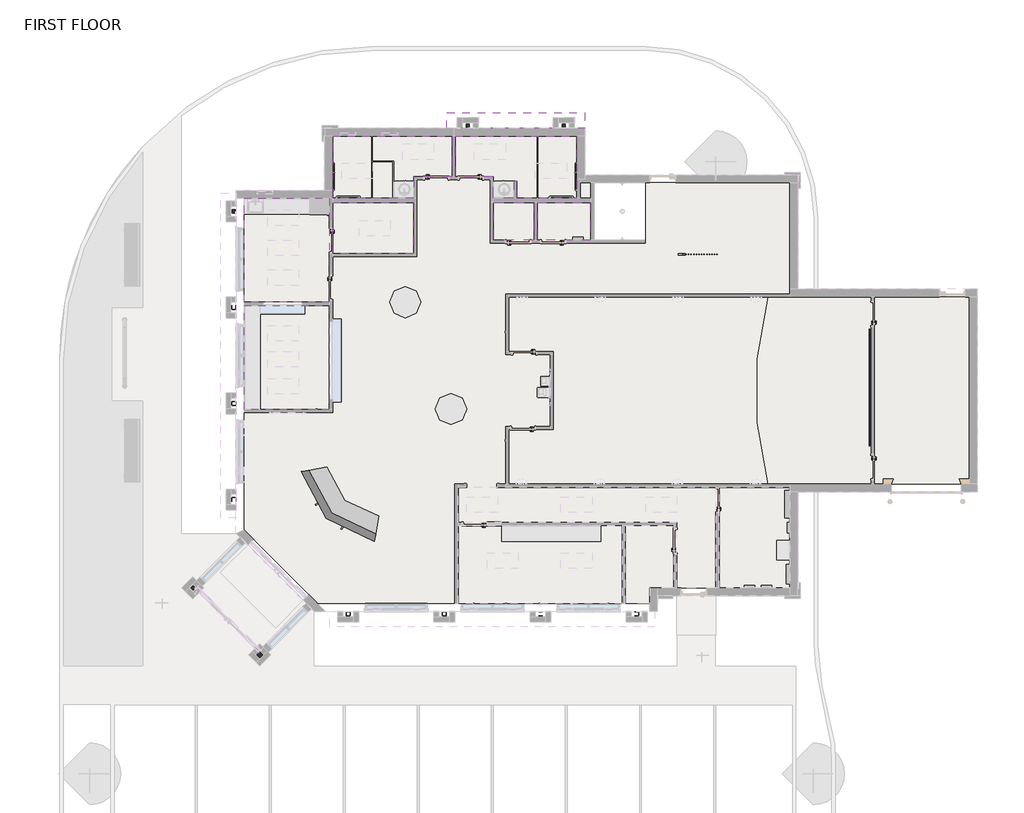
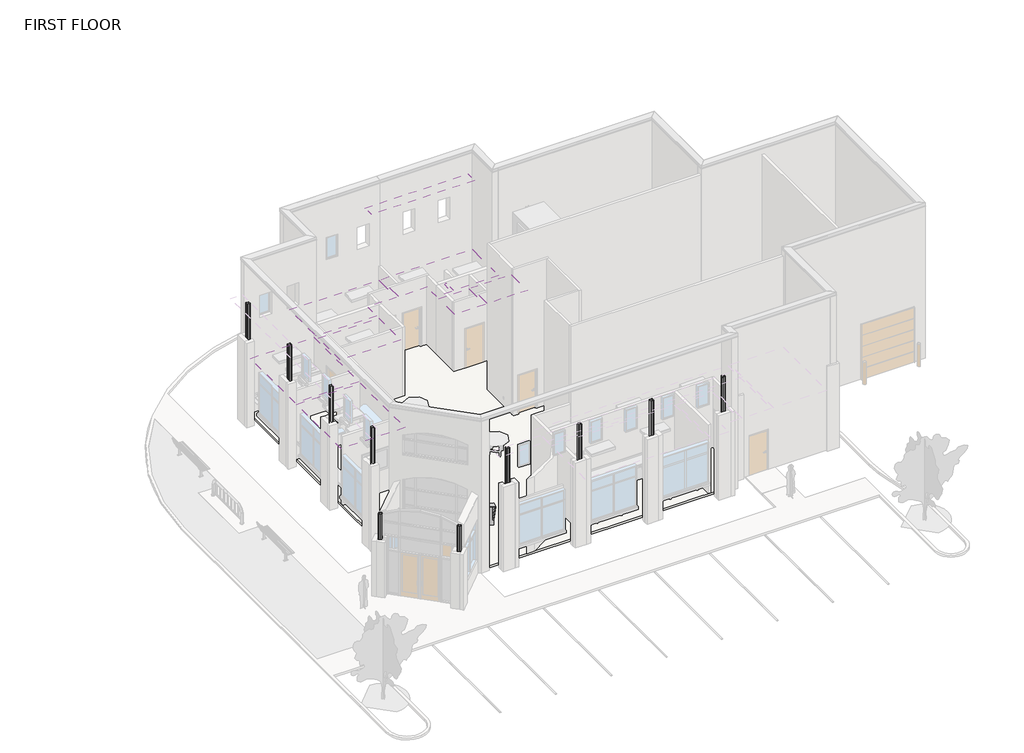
# One storey, part 5 of 7: 12 columns, 7 coverings, 3 furniture elements, 2 railings, 2 slabs, 1 roof.
"""IFC4 building model written with IfcOpenShell, lengths in millimetres."""

from ifc_helpers import new_model, si_unit, point, frame, frame_2d, origin, place, context, project, spatial, polyline, circle_curve, trimmed, segment, composite_curve, outline, extrude, transform, mapped, element, save
from components import furniture_81c1c4d7, curved_reception_counter_short_curved_reception_counter_620d5c6e, handrail_rectangular_f7c7f1c9, handrail_rectangular_457fed54

model = new_model("IFC4")

# Units and contexts
model_context = context("Model", 3, world=origin())
ifc_project = project(units=[si_unit("LENGTHUNIT", "METRE", prefix="MILLI")], contexts=[model_context])

# Site, building, storey
site = spatial("IfcSite", under=ifc_project)
building = spatial("IfcBuilding", under=site)
storey = spatial("IfcBuildingStorey", under=building, Name="FIRST FLOOR", Elevation=30480.0)

# Columns
placement = place(None, origin())
element("IfcColumn", 1, ObjectType="HSS-Hollow Structural Section-Column : HSS6X6X1/2", at=placement, inside=storey, context=model_context, shape_type="SweptSolid", body=[
    extrude(outline(composite_curve([segment(trimmed(circle_curve(frame_2d((-12403.0493155, -6306.813022)), 23.6140625), [point((-12403.0493155, -6283.1989595))], [point((-12379.435253, -6306.813022))], False, "CARTESIAN"), True, "CONTINUOUS"), segment(polyline([(-12379.435253, -6306.813022), (-12379.435253, -6411.984897)]), True, "CONTINUOUS"), segment(trimmed(circle_curve(frame_2d((-12403.0493155, -6411.984897)), 23.6140625), [point((-12379.435253, -6411.984897))], [point((-12403.0493155, -6435.5989595))], False, "CARTESIAN"), True, "CONTINUOUS"), segment(polyline([(-12403.0493155, -6435.5989595), (-12508.2211905, -6435.5989595)]), True, "CONTINUOUS"), segment(trimmed(circle_curve(frame_2d((-12508.2211905, -6411.984897)), 23.6140625), [point((-12508.2211905, -6435.5989595))], [point((-12531.835253, -6411.984897))], False, "CARTESIAN"), True, "CONTINUOUS"), segment(polyline([(-12531.835253, -6411.984897), (-12531.835253, -6306.813022)]), True, "CONTINUOUS"), segment(trimmed(circle_curve(frame_2d((-12508.2211905, -6306.813022)), 23.6140625), [point((-12531.835253, -6306.813022))], [point((-12508.2211905, -6283.1989595))], False, "CARTESIAN"), True, "CONTINUOUS"), segment(polyline([(-12508.2211905, -6283.1989595), (-12403.0493155, -6283.1989595)]), True, "CONTINUOUS")], self_intersect=False), holes=[composite_curve([segment(polyline([(-12403.0493155, -6295.0059907), (-12508.2211905, -6295.0059907)]), True, "CONTINUOUS"), segment(trimmed(circle_curve(frame_2d((-12508.2211905, -6306.813022)), 11.8070312), [point((-12508.2211905, -6295.0059907))], [point((-12520.0282218, -6306.813022))], True, "CARTESIAN"), True, "CONTINUOUS"), segment(polyline([(-12520.0282218, -6306.813022), (-12520.0282218, -6411.984897)]), True, "CONTINUOUS"), segment(trimmed(circle_curve(frame_2d((-12508.2211905, -6411.984897)), 11.8070312), [point((-12520.0282218, -6411.984897))], [point((-12508.2211905, -6423.7919282))], True, "CARTESIAN"), True, "CONTINUOUS"), segment(polyline([(-12508.2211905, -6423.7919282), (-12403.0493155, -6423.7919282)]), True, "CONTINUOUS"), segment(trimmed(circle_curve(frame_2d((-12403.0493155, -6411.984897)), 11.8070312), [point((-12403.0493155, -6423.7919282))], [point((-12391.2422843, -6411.984897))], True, "CARTESIAN"), True, "CONTINUOUS"), segment(polyline([(-12391.2422843, -6411.984897), (-12391.2422843, -6306.813022)]), True, "CONTINUOUS"), segment(trimmed(circle_curve(frame_2d((-12403.0493155, -6306.813022)), 11.8070312), [point((-12391.2422843, -6306.813022))], [point((-12403.0493155, -6295.0059907))], True, "CARTESIAN"), True, "CONTINUOUS")], self_intersect=False)]), frame((0.0, 0.0, 30480.0), z_axis=(0.0, 0.0, 1.0), x_axis=(1.0, 0.0, 0.0)), (0.0, 0.0, 1.0), 6553.2),
])
element("IfcColumn", 2, ObjectType="HSS-Hollow Structural Section-Column : HSS6X6X1/2", at=placement, inside=storey, context=model_context, shape_type="SweptSolid", body=[
    extrude(outline(composite_curve([segment(trimmed(circle_curve(frame_2d((-8643.8594755, -6306.813022)), 23.6140625), [point((-8643.8594755, -6283.1989595))], [point((-8620.245413, -6306.813022))], False, "CARTESIAN"), True, "CONTINUOUS"), segment(polyline([(-8620.245413, -6306.813022), (-8620.245413, -6411.984897)]), True, "CONTINUOUS"), segment(trimmed(circle_curve(frame_2d((-8643.8594755, -6411.984897)), 23.6140625), [point((-8620.245413, -6411.984897))], [point((-8643.8594755, -6435.5989595))], False, "CARTESIAN"), True, "CONTINUOUS"), segment(polyline([(-8643.8594755, -6435.5989595), (-8749.0313505, -6435.5989595)]), True, "CONTINUOUS"), segment(trimmed(circle_curve(frame_2d((-8749.0313505, -6411.984897)), 23.6140625), [point((-8749.0313505, -6435.5989595))], [point((-8772.645413, -6411.984897))], False, "CARTESIAN"), True, "CONTINUOUS"), segment(polyline([(-8772.645413, -6411.984897), (-8772.645413, -6306.813022)]), True, "CONTINUOUS"), segment(trimmed(circle_curve(frame_2d((-8749.0313505, -6306.813022)), 23.6140625), [point((-8772.645413, -6306.813022))], [point((-8749.0313505, -6283.1989595))], False, "CARTESIAN"), True, "CONTINUOUS"), segment(polyline([(-8749.0313505, -6283.1989595), (-8643.8594755, -6283.1989595)]), True, "CONTINUOUS")], self_intersect=False), holes=[composite_curve([segment(polyline([(-8643.8594755, -6295.0059907), (-8749.0313505, -6295.0059907)]), True, "CONTINUOUS"), segment(trimmed(circle_curve(frame_2d((-8749.0313505, -6306.813022)), 11.8070312), [point((-8749.0313505, -6295.0059907))], [point((-8760.8383818, -6306.813022))], True, "CARTESIAN"), True, "CONTINUOUS"), segment(polyline([(-8760.8383818, -6306.813022), (-8760.8383818, -6411.984897)]), True, "CONTINUOUS"), segment(trimmed(circle_curve(frame_2d((-8749.0313505, -6411.984897)), 11.8070313), [point((-8760.8383818, -6411.984897))], [point((-8749.0313505, -6423.7919282))], True, "CARTESIAN"), True, "CONTINUOUS"), segment(polyline([(-8749.0313505, -6423.7919282), (-8643.8594755, -6423.7919282)]), True, "CONTINUOUS"), segment(trimmed(circle_curve(frame_2d((-8643.8594755, -6411.984897)), 11.8070312), [point((-8643.8594755, -6423.7919282))], [point((-8632.0524443, -6411.984897))], True, "CARTESIAN"), True, "CONTINUOUS"), segment(polyline([(-8632.0524443, -6411.984897), (-8632.0524443, -6306.813022)]), True, "CONTINUOUS"), segment(trimmed(circle_curve(frame_2d((-8643.8594755, -6306.813022)), 11.8070312), [point((-8632.0524443, -6306.813022))], [point((-8643.8594755, -6295.0059907))], True, "CARTESIAN"), True, "CONTINUOUS")], self_intersect=False)]), frame((0.0, 0.0, 30480.0), z_axis=(0.0, 0.0, 1.0), x_axis=(1.0, 0.0, 0.0)), (0.0, 0.0, 1.0), 6553.2),
])
element("IfcColumn", 3, ObjectType="HSS-Hollow Structural Section-Column : HSS6X6X1/2", at=placement, inside=storey, context=model_context, shape_type="SweptSolid", body=[
    extrude(outline(composite_curve([segment(trimmed(circle_curve(frame_2d((-4884.6696355, -6306.813022)), 23.6140625), [point((-4884.6696355, -6283.1989595))], [point((-4861.055573, -6306.813022))], False, "CARTESIAN"), True, "CONTINUOUS"), segment(polyline([(-4861.055573, -6306.813022), (-4861.055573, -6411.984897)]), True, "CONTINUOUS"), segment(trimmed(circle_curve(frame_2d((-4884.6696355, -6411.984897)), 23.6140625), [point((-4861.055573, -6411.984897))], [point((-4884.6696355, -6435.5989595))], False, "CARTESIAN"), True, "CONTINUOUS"), segment(polyline([(-4884.6696355, -6435.5989595), (-4989.8415105, -6435.5989595)]), True, "CONTINUOUS"), segment(trimmed(circle_curve(frame_2d((-4989.8415105, -6411.984897)), 23.6140625), [point((-4989.8415105, -6435.5989595))], [point((-5013.455573, -6411.984897))], False, "CARTESIAN"), True, "CONTINUOUS"), segment(polyline([(-5013.455573, -6411.984897), (-5013.455573, -6306.813022)]), True, "CONTINUOUS"), segment(trimmed(circle_curve(frame_2d((-4989.8415105, -6306.813022)), 23.6140625), [point((-5013.455573, -6306.813022))], [point((-4989.8415105, -6283.1989595))], False, "CARTESIAN"), True, "CONTINUOUS"), segment(polyline([(-4989.8415105, -6283.1989595), (-4884.6696355, -6283.1989595)]), True, "CONTINUOUS")], self_intersect=False), holes=[composite_curve([segment(polyline([(-4884.6696355, -6295.0059907), (-4989.8415105, -6295.0059907)]), True, "CONTINUOUS"), segment(trimmed(circle_curve(frame_2d((-4989.8415105, -6306.813022)), 11.8070312), [point((-4989.8415105, -6295.0059907))], [point((-5001.6485418, -6306.813022))], True, "CARTESIAN"), True, "CONTINUOUS"), segment(polyline([(-5001.6485418, -6306.813022), (-5001.6485418, -6411.984897)]), True, "CONTINUOUS"), segment(trimmed(circle_curve(frame_2d((-4989.8415105, -6411.984897)), 11.8070313), [point((-5001.6485418, -6411.984897))], [point((-4989.8415105, -6423.7919282))], True, "CARTESIAN"), True, "CONTINUOUS"), segment(polyline([(-4989.8415105, -6423.7919282), (-4884.6696355, -6423.7919282)]), True, "CONTINUOUS"), segment(trimmed(circle_curve(frame_2d((-4884.6696355, -6411.984897)), 11.8070312), [point((-4884.6696355, -6423.7919282))], [point((-4872.8626043, -6411.984897))], True, "CARTESIAN"), True, "CONTINUOUS"), segment(polyline([(-4872.8626043, -6411.984897), (-4872.8626043, -6306.813022)]), True, "CONTINUOUS"), segment(trimmed(circle_curve(frame_2d((-4884.6696355, -6306.813022)), 11.8070312), [point((-4872.8626043, -6306.813022))], [point((-4884.6696355, -6295.0059907))], True, "CARTESIAN"), True, "CONTINUOUS")], self_intersect=False)]), frame((0.0, 0.0, 30480.0), z_axis=(0.0, 0.0, 1.0), x_axis=(1.0, 0.0, 0.0)), (0.0, 0.0, 1.0), 6553.2),
])
element("IfcColumn", 4, ObjectType="HSS-Hollow Structural Section-Column : HSS6X6X1/2", at=placement, inside=storey, context=model_context, shape_type="SweptSolid", body=[
    extrude(outline(composite_curve([segment(trimmed(circle_curve(frame_2d((-1125.4797955, -6306.813022)), 23.6140625), [point((-1125.4797955, -6283.1989595))], [point((-1101.865733, -6306.813022))], False, "CARTESIAN"), True, "CONTINUOUS"), segment(polyline([(-1101.865733, -6306.813022), (-1101.865733, -6411.984897)]), True, "CONTINUOUS"), segment(trimmed(circle_curve(frame_2d((-1125.4797955, -6411.984897)), 23.6140625), [point((-1101.865733, -6411.984897))], [point((-1125.4797955, -6435.5989595))], False, "CARTESIAN"), True, "CONTINUOUS"), segment(polyline([(-1125.4797955, -6435.5989595), (-1230.6516705, -6435.5989595)]), True, "CONTINUOUS"), segment(trimmed(circle_curve(frame_2d((-1230.6516705, -6411.984897)), 23.6140625), [point((-1230.6516705, -6435.5989595))], [point((-1254.265733, -6411.984897))], False, "CARTESIAN"), True, "CONTINUOUS"), segment(polyline([(-1254.265733, -6411.984897), (-1254.265733, -6306.813022)]), True, "CONTINUOUS"), segment(trimmed(circle_curve(frame_2d((-1230.6516705, -6306.813022)), 23.6140625), [point((-1254.265733, -6306.813022))], [point((-1230.6516705, -6283.1989595))], False, "CARTESIAN"), True, "CONTINUOUS"), segment(polyline([(-1230.6516705, -6283.1989595), (-1125.4797955, -6283.1989595)]), True, "CONTINUOUS")], self_intersect=False), holes=[composite_curve([segment(polyline([(-1125.4797955, -6295.0059907), (-1230.6516705, -6295.0059907)]), True, "CONTINUOUS"), segment(trimmed(circle_curve(frame_2d((-1230.6516705, -6306.813022)), 11.8070312), [point((-1230.6516705, -6295.0059907))], [point((-1242.4587018, -6306.813022))], True, "CARTESIAN"), True, "CONTINUOUS"), segment(polyline([(-1242.4587018, -6306.813022), (-1242.4587018, -6411.984897)]), True, "CONTINUOUS"), segment(trimmed(circle_curve(frame_2d((-1230.6516705, -6411.984897)), 11.8070313), [point((-1242.4587018, -6411.984897))], [point((-1230.6516705, -6423.7919282))], True, "CARTESIAN"), True, "CONTINUOUS"), segment(polyline([(-1230.6516705, -6423.7919282), (-1125.4797955, -6423.7919282)]), True, "CONTINUOUS"), segment(trimmed(circle_curve(frame_2d((-1125.4797955, -6411.984897)), 11.8070312), [point((-1125.4797955, -6423.7919282))], [point((-1113.6727643, -6411.984897))], True, "CARTESIAN"), True, "CONTINUOUS"), segment(polyline([(-1113.6727643, -6411.984897), (-1113.6727643, -6306.813022)]), True, "CONTINUOUS"), segment(trimmed(circle_curve(frame_2d((-1125.4797955, -6306.813022)), 11.8070312), [point((-1113.6727643, -6306.813022))], [point((-1125.4797955, -6295.0059907))], True, "CARTESIAN"), True, "CONTINUOUS")], self_intersect=False)]), frame((0.0, 0.0, 30480.0), z_axis=(0.0, 0.0, 1.0), x_axis=(1.0, 0.0, 0.0)), (0.0, 0.0, 1.0), 6553.2),
])
element("IfcColumn", 5, ObjectType="HSS-Hollow Structural Section-Column : HSS6X6X1/2", at=placement, inside=storey, context=model_context, shape_type="SweptSolid", body=[
    extrude(outline(composite_curve([segment(trimmed(circle_curve(frame_2d((-15835.667507, -7960.3466657)), 23.6140625), [point((-15818.9698433, -7943.6490019))], [point((-15818.9698433, -7977.0443294))], False, "CARTESIAN"), True, "CONTINUOUS"), segment(polyline([(-15818.9698433, -7977.0443294), (-15893.3375893, -8051.4120754)]), True, "CONTINUOUS"), segment(trimmed(circle_curve(frame_2d((-15910.035253, -8034.7144117)), 23.6140625), [point((-15893.3375893, -8051.4120754))], [point((-15926.7329168, -8051.4120754))], False, "CARTESIAN"), True, "CONTINUOUS"), segment(polyline([(-15926.7329168, -8051.4120754), (-16001.1006628, -7977.0443294)]), True, "CONTINUOUS"), segment(trimmed(circle_curve(frame_2d((-15984.402999, -7960.3466657)), 23.6140625), [point((-16001.1006628, -7977.0443294))], [point((-16001.1006628, -7943.6490019))], False, "CARTESIAN"), True, "CONTINUOUS"), segment(polyline([(-16001.1006628, -7943.6490019), (-15926.7329168, -7869.2812559)]), True, "CONTINUOUS"), segment(trimmed(circle_curve(frame_2d((-15910.035253, -7885.9789197)), 23.6140625), [point((-15926.7329168, -7869.2812559))], [point((-15893.3375893, -7869.2812559))], False, "CARTESIAN"), True, "CONTINUOUS"), segment(polyline([(-15893.3375893, -7869.2812559), (-15818.9698433, -7943.6490019)]), True, "CONTINUOUS")], self_intersect=False), holes=[composite_curve([segment(polyline([(-15827.3186752, -7951.9978338), (-15901.6864212, -7877.6300878)]), True, "CONTINUOUS"), segment(trimmed(circle_curve(frame_2d((-15910.035253, -7885.9789197)), 11.8070312), [point((-15901.6864212, -7877.6300878))], [point((-15918.3840849, -7877.6300878))], True, "CARTESIAN"), True, "CONTINUOUS"), segment(polyline([(-15918.3840849, -7877.6300878), (-15992.7518309, -7951.9978338)]), True, "CONTINUOUS"), segment(trimmed(circle_curve(frame_2d((-15984.402999, -7960.3466657)), 11.8070313), [point((-15992.7518309, -7951.9978338))], [point((-15992.7518309, -7968.6954975))], True, "CARTESIAN"), True, "CONTINUOUS"), segment(polyline([(-15992.7518309, -7968.6954975), (-15918.3840849, -8043.0632435)]), True, "CONTINUOUS"), segment(trimmed(circle_curve(frame_2d((-15910.035253, -8034.7144117)), 11.8070312), [point((-15918.3840849, -8043.0632435))], [point((-15901.6864212, -8043.0632435))], True, "CARTESIAN"), True, "CONTINUOUS"), segment(polyline([(-15901.6864212, -8043.0632435), (-15827.3186752, -7968.6954975)]), True, "CONTINUOUS"), segment(trimmed(circle_curve(frame_2d((-15835.667507, -7960.3466657)), 11.8070312), [point((-15827.3186752, -7968.6954975))], [point((-15827.3186752, -7951.9978338))], True, "CARTESIAN"), True, "CONTINUOUS")], self_intersect=False)]), frame((0.0, 0.0, 30480.0), z_axis=(0.0, 0.0, 1.0), x_axis=(1.0, 0.0, 0.0)), (0.0, 0.0, 1.0), 4419.6),
])
element("IfcColumn", 6, ObjectType="HSS-Hollow Structural Section-Column : HSS6X6X1/2", at=placement, inside=storey, context=model_context, shape_type="SweptSolid", body=[
    extrude(outline(composite_curve([segment(polyline([(-18510.2852955, -5252.3335497), (-18435.9175495, -5326.7012957)]), True, "CONTINUOUS"), segment(trimmed(circle_curve(frame_2d((-18452.6152132, -5343.3989595)), 23.6140625), [point((-18435.9175495, -5326.7012957))], [point((-18435.9175495, -5360.0966232))], False, "CARTESIAN"), True, "CONTINUOUS"), segment(polyline([(-18435.9175495, -5360.0966232), (-18510.2852955, -5434.4643692)]), True, "CONTINUOUS"), segment(trimmed(circle_curve(frame_2d((-18526.9829592, -5417.7667055)), 23.6140625), [point((-18510.2852955, -5434.4643692))], [point((-18543.6806229, -5434.4643692))], False, "CARTESIAN"), True, "CONTINUOUS"), segment(polyline([(-18543.6806229, -5434.4643692), (-18618.0483689, -5360.0966232)]), True, "CONTINUOUS"), segment(trimmed(circle_curve(frame_2d((-18601.3507052, -5343.3989595)), 23.6140625), [point((-18618.0483689, -5360.0966232))], [point((-18618.0483689, -5326.7012957))], False, "CARTESIAN"), True, "CONTINUOUS"), segment(polyline([(-18618.0483689, -5326.7012957), (-18543.6806229, -5252.3335497)]), True, "CONTINUOUS"), segment(trimmed(circle_curve(frame_2d((-18526.9829592, -5269.0312135)), 23.6140625), [point((-18543.6806229, -5252.3335497))], [point((-18510.2852955, -5252.3335497))], False, "CARTESIAN"), True, "CONTINUOUS")], self_intersect=False), holes=[composite_curve([segment(trimmed(circle_curve(frame_2d((-18526.9829592, -5269.0312135)), 11.8070312), [point((-18518.6341274, -5260.6823816))], [point((-18535.3317911, -5260.6823816))], True, "CARTESIAN"), True, "CONTINUOUS"), segment(polyline([(-18535.3317911, -5260.6823816), (-18609.6995371, -5335.0501276)]), True, "CONTINUOUS"), segment(trimmed(circle_curve(frame_2d((-18601.3507052, -5343.3989595)), 11.8070312), [point((-18609.6995371, -5335.0501276))], [point((-18609.6995371, -5351.7477913))], True, "CARTESIAN"), True, "CONTINUOUS"), segment(polyline([(-18609.6995371, -5351.7477913), (-18535.3317911, -5426.1155373)]), True, "CONTINUOUS"), segment(trimmed(circle_curve(frame_2d((-18526.9829592, -5417.7667055)), 11.8070312), [point((-18535.3317911, -5426.1155373))], [point((-18518.6341274, -5426.1155373))], True, "CARTESIAN"), True, "CONTINUOUS"), segment(polyline([(-18518.6341274, -5426.1155373), (-18444.2663813, -5351.7477913)]), True, "CONTINUOUS"), segment(trimmed(circle_curve(frame_2d((-18452.6152132, -5343.3989595)), 11.8070313), [point((-18444.2663813, -5351.7477913))], [point((-18444.2663813, -5335.0501276))], True, "CARTESIAN"), True, "CONTINUOUS"), segment(polyline([(-18444.2663813, -5335.0501276), (-18518.6341274, -5260.6823816)]), True, "CONTINUOUS")], self_intersect=False)]), frame((0.0, 0.0, 30480.0), z_axis=(0.0, 0.0, 1.0), x_axis=(1.0, 0.0, 0.0)), (0.0, 0.0, 1.0), 4419.6),
])
element("IfcColumn", 7, ObjectType="HSS-Hollow Structural Section-Column : HSS6X6X1/2", at=placement, inside=storey, context=model_context, shape_type="SweptSolid", body=[
    extrude(outline(composite_curve([segment(trimmed(circle_curve(frame_2d((-16873.4493155, 9335.984623)), 23.6140625), [point((-16849.835253, 9335.984623))], [point((-16873.4493155, 9312.3705605))], False, "CARTESIAN"), True, "CONTINUOUS"), segment(polyline([(-16873.4493155, 9312.3705605), (-16978.6211905, 9312.3705605)]), True, "CONTINUOUS"), segment(trimmed(circle_curve(frame_2d((-16978.6211905, 9335.984623)), 23.6140625), [point((-16978.6211905, 9312.3705605))], [point((-17002.235253, 9335.984623))], False, "CARTESIAN"), True, "CONTINUOUS"), segment(polyline([(-17002.235253, 9335.984623), (-17002.235253, 9441.156498)]), True, "CONTINUOUS"), segment(trimmed(circle_curve(frame_2d((-16978.6211905, 9441.156498)), 23.6140625), [point((-17002.235253, 9441.156498))], [point((-16978.6211905, 9464.7705605))], False, "CARTESIAN"), True, "CONTINUOUS"), segment(polyline([(-16978.6211905, 9464.7705605), (-16873.4493155, 9464.7705605)]), True, "CONTINUOUS"), segment(trimmed(circle_curve(frame_2d((-16873.4493155, 9441.156498)), 23.6140625), [point((-16873.4493155, 9464.7705605))], [point((-16849.835253, 9441.156498))], False, "CARTESIAN"), True, "CONTINUOUS"), segment(polyline([(-16849.835253, 9441.156498), (-16849.835253, 9335.984623)]), True, "CONTINUOUS")], self_intersect=False), holes=[composite_curve([segment(polyline([(-16861.6422843, 9335.984623), (-16861.6422843, 9441.156498)]), True, "CONTINUOUS"), segment(trimmed(circle_curve(frame_2d((-16873.4493155, 9441.156498)), 11.8070313), [point((-16861.6422843, 9441.156498))], [point((-16873.4493155, 9452.9635293))], True, "CARTESIAN"), True, "CONTINUOUS"), segment(polyline([(-16873.4493155, 9452.9635293), (-16978.6211905, 9452.9635293)]), True, "CONTINUOUS"), segment(trimmed(circle_curve(frame_2d((-16978.6211905, 9441.156498)), 11.8070313), [point((-16978.6211905, 9452.9635293))], [point((-16990.4282218, 9441.156498))], True, "CARTESIAN"), True, "CONTINUOUS"), segment(polyline([(-16990.4282218, 9441.156498), (-16990.4282218, 9335.984623)]), True, "CONTINUOUS"), segment(trimmed(circle_curve(frame_2d((-16978.6211905, 9335.984623)), 11.8070312), [point((-16990.4282218, 9335.984623))], [point((-16978.6211905, 9324.1775918))], True, "CARTESIAN"), True, "CONTINUOUS"), segment(polyline([(-16978.6211905, 9324.1775918), (-16873.4493155, 9324.1775918)]), True, "CONTINUOUS"), segment(trimmed(circle_curve(frame_2d((-16873.4493155, 9335.984623)), 11.8070312), [point((-16873.4493155, 9324.1775918))], [point((-16861.6422843, 9335.984623))], True, "CARTESIAN"), True, "CONTINUOUS")], self_intersect=False)]), frame((0.0, 0.0, 30480.0), z_axis=(0.0, 0.0, 1.0), x_axis=(1.0, 0.0, 0.0)), (0.0, 0.0, 1.0), 6553.2),
])
element("IfcColumn", 8, ObjectType="HSS-Hollow Structural Section-Column : HSS6X6X1/2", at=placement, inside=storey, context=model_context, shape_type="SweptSolid", body=[
    extrude(outline(composite_curve([segment(trimmed(circle_curve(frame_2d((-16873.4493155, 5576.794783)), 23.6140625), [point((-16849.835253, 5576.794783))], [point((-16873.4493155, 5553.1807205))], False, "CARTESIAN"), True, "CONTINUOUS"), segment(polyline([(-16873.4493155, 5553.1807205), (-16978.6211905, 5553.1807205)]), True, "CONTINUOUS"), segment(trimmed(circle_curve(frame_2d((-16978.6211905, 5576.794783)), 23.6140625), [point((-16978.6211905, 5553.1807205))], [point((-17002.235253, 5576.794783))], False, "CARTESIAN"), True, "CONTINUOUS"), segment(polyline([(-17002.235253, 5576.794783), (-17002.235253, 5681.966658)]), True, "CONTINUOUS"), segment(trimmed(circle_curve(frame_2d((-16978.6211905, 5681.966658)), 23.6140625), [point((-17002.235253, 5681.966658))], [point((-16978.6211905, 5705.5807205))], False, "CARTESIAN"), True, "CONTINUOUS"), segment(polyline([(-16978.6211905, 5705.5807205), (-16873.4493155, 5705.5807205)]), True, "CONTINUOUS"), segment(trimmed(circle_curve(frame_2d((-16873.4493155, 5681.966658)), 23.6140625), [point((-16873.4493155, 5705.5807205))], [point((-16849.835253, 5681.966658))], False, "CARTESIAN"), True, "CONTINUOUS"), segment(polyline([(-16849.835253, 5681.966658), (-16849.835253, 5576.794783)]), True, "CONTINUOUS")], self_intersect=False), holes=[composite_curve([segment(polyline([(-16861.6422843, 5576.794783), (-16861.6422843, 5681.966658)]), True, "CONTINUOUS"), segment(trimmed(circle_curve(frame_2d((-16873.4493155, 5681.966658)), 11.8070313), [point((-16861.6422843, 5681.966658))], [point((-16873.4493155, 5693.7736893))], True, "CARTESIAN"), True, "CONTINUOUS"), segment(polyline([(-16873.4493155, 5693.7736893), (-16978.6211905, 5693.7736893)]), True, "CONTINUOUS"), segment(trimmed(circle_curve(frame_2d((-16978.6211905, 5681.966658)), 11.8070313), [point((-16978.6211905, 5693.7736893))], [point((-16990.4282218, 5681.966658))], True, "CARTESIAN"), True, "CONTINUOUS"), segment(polyline([(-16990.4282218, 5681.966658), (-16990.4282218, 5576.794783)]), True, "CONTINUOUS"), segment(trimmed(circle_curve(frame_2d((-16978.6211905, 5576.794783)), 11.8070312), [point((-16990.4282218, 5576.794783))], [point((-16978.6211905, 5564.9877518))], True, "CARTESIAN"), True, "CONTINUOUS"), segment(polyline([(-16978.6211905, 5564.9877518), (-16873.4493155, 5564.9877518)]), True, "CONTINUOUS"), segment(trimmed(circle_curve(frame_2d((-16873.4493155, 5576.794783)), 11.8070312), [point((-16873.4493155, 5564.9877518))], [point((-16861.6422843, 5576.794783))], True, "CARTESIAN"), True, "CONTINUOUS")], self_intersect=False)]), frame((0.0, 0.0, 30480.0), z_axis=(0.0, 0.0, 1.0), x_axis=(1.0, 0.0, 0.0)), (0.0, 0.0, 1.0), 6553.2),
])
element("IfcColumn", 9, ObjectType="HSS-Hollow Structural Section-Column : HSS6X6X1/2", at=placement, inside=storey, context=model_context, shape_type="SweptSolid", body=[
    extrude(outline(composite_curve([segment(trimmed(circle_curve(frame_2d((-16873.4493155, 1817.604943)), 23.6140625), [point((-16849.835253, 1817.604943))], [point((-16873.4493155, 1793.9908805))], False, "CARTESIAN"), True, "CONTINUOUS"), segment(polyline([(-16873.4493155, 1793.9908805), (-16978.6211905, 1793.9908805)]), True, "CONTINUOUS"), segment(trimmed(circle_curve(frame_2d((-16978.6211905, 1817.604943)), 23.6140625), [point((-16978.6211905, 1793.9908805))], [point((-17002.235253, 1817.604943))], False, "CARTESIAN"), True, "CONTINUOUS"), segment(polyline([(-17002.235253, 1817.604943), (-17002.235253, 1922.776818)]), True, "CONTINUOUS"), segment(trimmed(circle_curve(frame_2d((-16978.6211905, 1922.776818)), 23.6140625), [point((-17002.235253, 1922.776818))], [point((-16978.6211905, 1946.3908805))], False, "CARTESIAN"), True, "CONTINUOUS"), segment(polyline([(-16978.6211905, 1946.3908805), (-16873.4493155, 1946.3908805)]), True, "CONTINUOUS"), segment(trimmed(circle_curve(frame_2d((-16873.4493155, 1922.776818)), 23.6140625), [point((-16873.4493155, 1946.3908805))], [point((-16849.835253, 1922.776818))], False, "CARTESIAN"), True, "CONTINUOUS"), segment(polyline([(-16849.835253, 1922.776818), (-16849.835253, 1817.604943)]), True, "CONTINUOUS")], self_intersect=False), holes=[composite_curve([segment(polyline([(-16861.6422843, 1817.604943), (-16861.6422843, 1922.776818)]), True, "CONTINUOUS"), segment(trimmed(circle_curve(frame_2d((-16873.4493155, 1922.776818)), 11.8070313), [point((-16861.6422843, 1922.776818))], [point((-16873.4493155, 1934.5838493))], True, "CARTESIAN"), True, "CONTINUOUS"), segment(polyline([(-16873.4493155, 1934.5838493), (-16978.6211905, 1934.5838493)]), True, "CONTINUOUS"), segment(trimmed(circle_curve(frame_2d((-16978.6211905, 1922.776818)), 11.8070313), [point((-16978.6211905, 1934.5838493))], [point((-16990.4282218, 1922.776818))], True, "CARTESIAN"), True, "CONTINUOUS"), segment(polyline([(-16990.4282218, 1922.776818), (-16990.4282218, 1817.604943)]), True, "CONTINUOUS"), segment(trimmed(circle_curve(frame_2d((-16978.6211905, 1817.604943)), 11.8070312), [point((-16990.4282218, 1817.604943))], [point((-16978.6211905, 1805.7979118))], True, "CARTESIAN"), True, "CONTINUOUS"), segment(polyline([(-16978.6211905, 1805.7979118), (-16873.4493155, 1805.7979118)]), True, "CONTINUOUS"), segment(trimmed(circle_curve(frame_2d((-16873.4493155, 1817.604943)), 11.8070312), [point((-16873.4493155, 1805.7979118))], [point((-16861.6422843, 1817.604943))], True, "CARTESIAN"), True, "CONTINUOUS")], self_intersect=False)]), frame((0.0, 0.0, 30480.0), z_axis=(0.0, 0.0, 1.0), x_axis=(1.0, 0.0, 0.0)), (0.0, 0.0, 1.0), 6553.2),
])
element("IfcColumn", 10, ObjectType="HSS-Hollow Structural Section-Column : HSS6X6X1/2", at=placement, inside=storey, context=model_context, shape_type="SweptSolid", body=[
    extrude(outline(composite_curve([segment(trimmed(circle_curve(frame_2d((-16873.4493155, -1941.584897)), 23.6140625), [point((-16849.835253, -1941.584897))], [point((-16873.4493155, -1965.1989595))], False, "CARTESIAN"), True, "CONTINUOUS"), segment(polyline([(-16873.4493155, -1965.1989595), (-16978.6211905, -1965.1989595)]), True, "CONTINUOUS"), segment(trimmed(circle_curve(frame_2d((-16978.6211905, -1941.584897)), 23.6140625), [point((-16978.6211905, -1965.1989595))], [point((-17002.235253, -1941.584897))], False, "CARTESIAN"), True, "CONTINUOUS"), segment(polyline([(-17002.235253, -1941.584897), (-17002.235253, -1836.413022)]), True, "CONTINUOUS"), segment(trimmed(circle_curve(frame_2d((-16978.6211905, -1836.413022)), 23.6140625), [point((-17002.235253, -1836.413022))], [point((-16978.6211905, -1812.7989595))], False, "CARTESIAN"), True, "CONTINUOUS"), segment(polyline([(-16978.6211905, -1812.7989595), (-16873.4493155, -1812.7989595)]), True, "CONTINUOUS"), segment(trimmed(circle_curve(frame_2d((-16873.4493155, -1836.413022)), 23.6140625), [point((-16873.4493155, -1812.7989595))], [point((-16849.835253, -1836.413022))], False, "CARTESIAN"), True, "CONTINUOUS"), segment(polyline([(-16849.835253, -1836.413022), (-16849.835253, -1941.584897)]), True, "CONTINUOUS")], self_intersect=False), holes=[composite_curve([segment(polyline([(-16861.6422843, -1941.584897), (-16861.6422843, -1836.413022)]), True, "CONTINUOUS"), segment(trimmed(circle_curve(frame_2d((-16873.4493155, -1836.413022)), 11.8070313), [point((-16861.6422843, -1836.413022))], [point((-16873.4493155, -1824.6059907))], True, "CARTESIAN"), True, "CONTINUOUS"), segment(polyline([(-16873.4493155, -1824.6059907), (-16978.6211905, -1824.6059907)]), True, "CONTINUOUS"), segment(trimmed(circle_curve(frame_2d((-16978.6211905, -1836.413022)), 11.8070313), [point((-16978.6211905, -1824.6059907))], [point((-16990.4282218, -1836.413022))], True, "CARTESIAN"), True, "CONTINUOUS"), segment(polyline([(-16990.4282218, -1836.413022), (-16990.4282218, -1941.584897)]), True, "CONTINUOUS"), segment(trimmed(circle_curve(frame_2d((-16978.6211905, -1941.584897)), 11.8070312), [point((-16990.4282218, -1941.584897))], [point((-16978.6211905, -1953.3919282))], True, "CARTESIAN"), True, "CONTINUOUS"), segment(polyline([(-16978.6211905, -1953.3919282), (-16873.4493155, -1953.3919282)]), True, "CONTINUOUS"), segment(trimmed(circle_curve(frame_2d((-16873.4493155, -1941.584897)), 11.8070312), [point((-16873.4493155, -1953.3919282))], [point((-16861.6422843, -1941.584897))], True, "CARTESIAN"), True, "CONTINUOUS")], self_intersect=False)]), frame((0.0, 0.0, 30480.0), z_axis=(0.0, 0.0, 1.0), x_axis=(1.0, 0.0, 0.0)), (0.0, 0.0, 1.0), 6553.2),
])
element("IfcColumn", 11, ObjectType="HSS-Hollow Structural Section-Column : HSS6X6X1/2", at=placement, inside=storey, context=model_context, shape_type="SweptSolid", body=[
    extrude(outline(composite_curve([segment(trimmed(circle_curve(frame_2d((-7834.5907105, 12688.815103)), 23.6140625), [point((-7834.5907105, 12665.2010405))], [point((-7858.204773, 12688.815103))], False, "CARTESIAN"), True, "CONTINUOUS"), segment(polyline([(-7858.204773, 12688.815103), (-7858.204773, 12793.986978)]), True, "CONTINUOUS"), segment(trimmed(circle_curve(frame_2d((-7834.5907105, 12793.986978)), 23.6140625), [point((-7858.204773, 12793.986978))], [point((-7834.5907105, 12817.6010405))], False, "CARTESIAN"), True, "CONTINUOUS"), segment(polyline([(-7834.5907105, 12817.6010405), (-7729.4188355, 12817.6010405)]), True, "CONTINUOUS"), segment(trimmed(circle_curve(frame_2d((-7729.4188355, 12793.986978)), 23.6140625), [point((-7729.4188355, 12817.6010405))], [point((-7705.804773, 12793.986978))], False, "CARTESIAN"), True, "CONTINUOUS"), segment(polyline([(-7705.804773, 12793.986978), (-7705.804773, 12688.815103)]), True, "CONTINUOUS"), segment(trimmed(circle_curve(frame_2d((-7729.4188355, 12688.815103)), 23.6140625), [point((-7705.804773, 12688.815103))], [point((-7729.4188355, 12665.2010405))], False, "CARTESIAN"), True, "CONTINUOUS"), segment(polyline([(-7729.4188355, 12665.2010405), (-7834.5907105, 12665.2010405)]), True, "CONTINUOUS")], self_intersect=False), holes=[composite_curve([segment(polyline([(-7834.5907105, 12677.0080718), (-7729.4188355, 12677.0080718)]), True, "CONTINUOUS"), segment(trimmed(circle_curve(frame_2d((-7729.4188355, 12688.815103)), 11.8070313), [point((-7729.4188355, 12677.0080718))], [point((-7717.6118043, 12688.815103))], True, "CARTESIAN"), True, "CONTINUOUS"), segment(polyline([(-7717.6118043, 12688.815103), (-7717.6118043, 12793.986978)]), True, "CONTINUOUS"), segment(trimmed(circle_curve(frame_2d((-7729.4188355, 12793.986978)), 11.8070313), [point((-7717.6118043, 12793.986978))], [point((-7729.4188355, 12805.7940093))], True, "CARTESIAN"), True, "CONTINUOUS"), segment(polyline([(-7729.4188355, 12805.7940093), (-7834.5907105, 12805.7940093)]), True, "CONTINUOUS"), segment(trimmed(circle_curve(frame_2d((-7834.5907105, 12793.986978)), 11.8070312), [point((-7834.5907105, 12805.7940093))], [point((-7846.3977418, 12793.986978))], True, "CARTESIAN"), True, "CONTINUOUS"), segment(polyline([(-7846.3977418, 12793.986978), (-7846.3977418, 12688.815103)]), True, "CONTINUOUS"), segment(trimmed(circle_curve(frame_2d((-7834.5907105, 12688.815103)), 11.8070312), [point((-7846.3977418, 12688.815103))], [point((-7834.5907105, 12677.0080718))], True, "CARTESIAN"), True, "CONTINUOUS")], self_intersect=False)]), frame((0.0, 0.0, 30480.0), z_axis=(0.0, 0.0, 1.0), x_axis=(1.0, 0.0, 0.0)), (0.0, 0.0, 1.0), 6553.2),
])
element("IfcColumn", 12, ObjectType="HSS-Hollow Structural Section-Column : HSS6X6X1/2", at=placement, inside=storey, context=model_context, shape_type="SweptSolid", body=[
    extrude(outline(composite_curve([segment(trimmed(circle_curve(frame_2d((-4075.3907105, 12688.815103)), 23.6140625), [point((-4075.3907105, 12665.2010405))], [point((-4099.004773, 12688.815103))], False, "CARTESIAN"), True, "CONTINUOUS"), segment(polyline([(-4099.004773, 12688.815103), (-4099.004773, 12793.986978)]), True, "CONTINUOUS"), segment(trimmed(circle_curve(frame_2d((-4075.3907105, 12793.986978)), 23.6140625), [point((-4099.004773, 12793.986978))], [point((-4075.3907105, 12817.6010405))], False, "CARTESIAN"), True, "CONTINUOUS"), segment(polyline([(-4075.3907105, 12817.6010405), (-3970.2188355, 12817.6010405)]), True, "CONTINUOUS"), segment(trimmed(circle_curve(frame_2d((-3970.2188355, 12793.986978)), 23.6140625), [point((-3970.2188355, 12817.6010405))], [point((-3946.604773, 12793.986978))], False, "CARTESIAN"), True, "CONTINUOUS"), segment(polyline([(-3946.604773, 12793.986978), (-3946.604773, 12688.815103)]), True, "CONTINUOUS"), segment(trimmed(circle_curve(frame_2d((-3970.2188355, 12688.815103)), 23.6140625), [point((-3946.604773, 12688.815103))], [point((-3970.2188355, 12665.2010405))], False, "CARTESIAN"), True, "CONTINUOUS"), segment(polyline([(-3970.2188355, 12665.2010405), (-4075.3907105, 12665.2010405)]), True, "CONTINUOUS")], self_intersect=False), holes=[composite_curve([segment(polyline([(-4075.3907105, 12677.0080718), (-3970.2188355, 12677.0080718)]), True, "CONTINUOUS"), segment(trimmed(circle_curve(frame_2d((-3970.2188355, 12688.815103)), 11.8070313), [point((-3970.2188355, 12677.0080718))], [point((-3958.4118043, 12688.815103))], True, "CARTESIAN"), True, "CONTINUOUS"), segment(polyline([(-3958.4118043, 12688.815103), (-3958.4118043, 12793.986978)]), True, "CONTINUOUS"), segment(trimmed(circle_curve(frame_2d((-3970.2188355, 12793.986978)), 11.8070313), [point((-3958.4118043, 12793.986978))], [point((-3970.2188355, 12805.7940093))], True, "CARTESIAN"), True, "CONTINUOUS"), segment(polyline([(-3970.2188355, 12805.7940093), (-4075.3907105, 12805.7940093)]), True, "CONTINUOUS"), segment(trimmed(circle_curve(frame_2d((-4075.3907105, 12793.986978)), 11.8070312), [point((-4075.3907105, 12805.7940093))], [point((-4087.1977418, 12793.986978))], True, "CARTESIAN"), True, "CONTINUOUS"), segment(polyline([(-4087.1977418, 12793.986978), (-4087.1977418, 12688.815103)]), True, "CONTINUOUS"), segment(trimmed(circle_curve(frame_2d((-4075.3907105, 12688.815103)), 11.8070312), [point((-4087.1977418, 12688.815103))], [point((-4075.3907105, 12677.0080718))], True, "CARTESIAN"), True, "CONTINUOUS")], self_intersect=False)]), frame((0.0, 0.0, 30480.0), z_axis=(0.0, 0.0, 1.0), x_axis=(1.0, 0.0, 0.0)), (0.0, 0.0, 1.0), 6553.2),
])

# Coverings
element("IfcCovering", 13, ObjectType="2' x 2' ACT System", at=placement, inside=storey, context=model_context, shape_type="SweptSolid", body=[
    extrude(outline(polyline([(-13189.060253, 1644.7760405), (-16519.635253, 1644.7760405), (-16519.635253, 5708.7760405), (-13189.060253, 5708.7760405), (-13189.060253, 1644.7760405)]), holes=[polyline([(-14386.035253, 2844.9158805), (-15605.235253, 2844.9158805), (-15605.235253, 2235.3158805), (-14386.035253, 2235.3158805), (-14386.035253, 2844.9158805)]), polyline([(-14386.035253, 4918.1807205), (-15605.235253, 4918.1807205), (-15605.235253, 4308.5807205), (-14386.035253, 4308.5807205), (-14386.035253, 4918.1807205)]), polyline([(-14386.035253, 3902.2010405), (-15605.235253, 3902.2010405), (-15605.235253, 3292.6010405), (-14386.035253, 3292.6010405), (-14386.035253, 3902.2010405)])]), frame((0.0, 0.0, 33528.0), z_axis=(0.0, 0.0, 1.0), x_axis=(1.0, 0.0, 0.0)), (0.0, 0.0, 1.0), 57.15),
])
element("IfcCovering", 14, ObjectType="2' x 2' ACT System", at=placement, inside=storey, context=model_context, shape_type="SweptSolid", body=[
    extrude(outline(polyline([(-16519.635253, 9896.6010405), (-13189.060253, 9896.6010405), (-13189.060253, 5832.6010405), (-16519.635253, 5832.6010405), (-16519.635253, 9896.6010405)]), holes=[polyline([(-14386.035253, 7102.6010405), (-15605.235253, 7102.6010405), (-15605.235253, 6493.0010405), (-14386.035253, 6493.0010405), (-14386.035253, 7102.6010405)]), polyline([(-14386.035253, 9448.8955605), (-15605.235253, 9448.8955605), (-15605.235253, 8839.2955605), (-14386.035253, 8839.2955605), (-14386.035253, 9448.8955605)]), polyline([(-14386.035253, 8271.0010405), (-15605.235253, 8271.0010405), (-15605.235253, 7661.4010405), (-14386.035253, 7661.4010405), (-14386.035253, 8271.0010405)])]), frame((0.0, 0.0, 33528.0), z_axis=(0.0, 0.0, 1.0), x_axis=(1.0, 0.0, 0.0)), (0.0, 0.0, 1.0), 57.15),
])
element("IfcCovering", 15, ObjectType="2' x 2' ACT System", at=placement, inside=storey, context=model_context, shape_type="SweptSolid", body=[
    extrude(outline(polyline([(-13065.235253, 12335.0010405), (-8394.810253, 12335.0010405), (-8394.810253, 10747.5010405), (-9890.235253, 10747.5010405), (-9890.235253, 9912.4760405), (-13065.235253, 9912.4760405), (-13065.235253, 10049.0010405), (-13065.235253, 12335.0010405)]), holes=[polyline([(-11490.435253, 11268.2010405), (-12709.635253, 11268.2010405), (-12709.635253, 10658.6010405), (-11490.435253, 10658.6010405), (-11490.435253, 11268.2010405)]), polyline([(-9102.845413, 12030.2010405), (-10322.045413, 12030.2010405), (-10322.045413, 11420.6010405), (-9102.845413, 11420.6010405), (-9102.845413, 12030.2010405)])]), frame((0.0, 0.0, 33528.0), z_axis=(0.0, 0.0, 1.0), x_axis=(1.0, 0.0, 0.0)), (0.0, 0.0, 1.0), 57.15),
])
element("IfcCovering", 16, ObjectType="2' x 2' ACT System", at=placement, inside=storey, context=model_context, shape_type="SweptSolid", body=[
    extrude(outline(polyline([(-3514.835253, 12335.0010405), (-3514.835253, 10658.6010405), (-3514.835253, 9912.4760405), (-5864.335253, 9912.4760405), (-5864.335253, 10572.8760405), (-5988.160253, 10572.8760405), (-5988.160253, 9912.4760405), (-6775.560253, 9912.4760405), (-6775.560253, 10747.5010405), (-8270.985253, 10747.5010405), (-8270.985253, 12335.0010405), (-3514.835253, 12335.0010405)]), holes=[polyline([(-6302.485253, 12030.2010405), (-7521.685253, 12030.2010405), (-7521.685253, 11420.6010405), (-6302.485253, 11420.6010405), (-6302.485253, 12030.2010405)]), polyline([(-3918.029773, 11268.2010405), (-5137.229773, 11268.2010405), (-5137.229773, 10658.6010405), (-3918.029773, 10658.6010405), (-3918.029773, 11268.2010405)])]), frame((0.0, 0.0, 33528.0), z_axis=(0.0, 0.0, 1.0), x_axis=(1.0, 0.0, 0.0)), (0.0, 0.0, 1.0), 57.15),
])
element("IfcCovering", 17, ObjectType="2' x 2' ACT System", at=placement, inside=storey, context=model_context, shape_type="SweptSolid", body=[
    extrude(outline(polyline([(-13065.235253, 7740.7760405), (-13065.235253, 9728.3260405), (-9890.235253, 9728.3260405), (-9890.235253, 7740.7760405), (-13065.235253, 7740.7760405)]), holes=[polyline([(-10804.635253, 9023.4455605), (-12023.835253, 9023.4455605), (-12023.835253, 8413.8455605), (-10804.635253, 8413.8455605), (-10804.635253, 9023.4455605)])]), frame((0.0, 0.0, 33528.0), z_axis=(0.0, 0.0, 1.0), x_axis=(1.0, 0.0, 0.0)), (0.0, 0.0, 1.0), 57.15),
])
element("IfcCovering", 18, ObjectType="2' x 2' ACT System", at=placement, inside=storey, context=model_context, shape_type="SweptSolid", body=[
    extrude(outline(polyline([(-5188.029773, 9728.3260405), (-5188.029773, 8271.0010405), (-6775.560253, 8271.0010405), (-6775.560253, 9728.3260405), (-5188.029773, 9728.3260405)])), frame((0.0, 0.0, 33528.0), z_axis=(0.0, 0.0, 1.0), x_axis=(1.0, 0.0, 0.0)), (0.0, 0.0, 1.0), 57.15),
])
element("IfcCovering", 19, ObjectType="2' x 2' ACT System", at=placement, inside=storey, context=model_context, shape_type="SweptSolid", body=[
    extrude(outline(polyline([(-2967.147753, 9728.3260405), (-2967.147753, 8271.0010405), (-5064.204773, 8271.0010405), (-5064.204773, 9728.3260405), (-2967.147753, 9728.3260405)])), frame((0.0, 0.0, 33528.0), z_axis=(0.0, 0.0, 1.0), x_axis=(1.0, 0.0, 0.0)), (0.0, 0.0, 1.0), 57.15),
])

# Furniture
furniture_shape = furniture_81c1c4d7(model_context)
element("IfcFurniture", 20, ObjectType="Base Cabinet-Double Door & 2 Drawer : 30\"", at=placement, inside=storey, context=model_context, shape_type="MappedRepresentation", body=[
    mapped(furniture_shape, transform((-5246.8381257, -2898.6489595, 30480.0), x_axis=(-1.0, 0.0, 0.0), y_axis=(0.0, -1.0, 0.0), z_axis=(0.0, 0.0, 1.0))),
])
element("IfcFurniture", 21, ObjectType="Base Cabinet-Double Door & 2 Drawer : 30\"", at=placement, inside=storey, context=model_context, shape_type="MappedRepresentation", body=[
    mapped(furniture_shape, transform((-6008.8381257, -2898.6489595, 30480.0), x_axis=(-1.0, 0.0, 0.0), y_axis=(0.0, -1.0, 0.0), z_axis=(0.0, 0.0, 1.0))),
])
curved_reception_counter_short_curved_reception_counter_shape = curved_reception_counter_short_curved_reception_counter_620d5c6e(model_context)
element("IfcFurniture", 22, ObjectType="curved_reception_counter_short : curved_reception_counter_short", at=placement, inside=storey, context=model_context, shape_type="MappedRepresentation", body=[
    mapped(curved_reception_counter_short_curved_reception_counter_shape, transform((-13352.7157986, -2295.3989595, 30480.0), x_axis=(0.9848077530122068, -0.17364817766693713, 0.0), y_axis=(0.17364817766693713, 0.9848077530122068, 0.0), z_axis=(0.0, 0.0, 1.0))),
])

# Railings
handrail_rectangular_shape = handrail_rectangular_f7c7f1c9(model_context)
element("IfcRailing", 23, ObjectType="Handrail - Rectangular", at=placement, inside=storey, context=model_context, shape_type="MappedRepresentation", body=[
    mapped(handrail_rectangular_shape, transform((0.0, 0.0, 0.0), x_axis=(1.0, 0.0, 0.0), y_axis=(0.0, 1.0, 0.0), z_axis=(0.0, 0.0, 1.0))),
])
handrail_rectangular_2_shape = handrail_rectangular_457fed54(model_context)
element("IfcRailing", 24, ObjectType="Handrail - Rectangular", at=placement, inside=storey, context=model_context, shape_type="MappedRepresentation", body=[
    mapped(handrail_rectangular_2_shape, transform((0.0, 0.0, 0.0), x_axis=(1.0, 0.0, 0.0), y_axis=(0.0, 1.0, 0.0), z_axis=(0.0, 0.0, 1.0))),
])

# Roof
element("IfcRoof", 25, ObjectType="Generic - 9\"", at=placement, inside=storey, context=model_context, shape_type="SweptSolid", body=[
    extrude(outline(polyline([(-8594.835253, 12639.8010405), (-8594.835253, 13249.4010405), (-3210.035253, 13249.4010405), (-3210.035253, 12639.8010405), (-8594.835253, 12639.8010405)])), frame((0.0, 0.0, 37033.2), z_axis=(0.0, 0.0, 1.0), x_axis=(1.0, 0.0, 0.0)), (0.0, 0.0, 1.0), 228.6),
])

# Slabs
element("IfcSlab", 26, ObjectType="Concrete - 4\"", at=placement, inside=storey, context=model_context, shape_type="SweptSolid", body=[
    extrude(outline(polyline([(-13065.235253, 9896.6010405), (-13065.235253, 12335.0010405), (-3514.835253, 12335.0010405), (-3514.835253, 10506.2010405), (-2854.435253, 10506.2010405), (-2854.435253, 8271.0010405), (-822.435253, 8271.0010405), (-822.435253, 10506.2010405), (4816.364747, 10506.2010405), (4816.364747, 6035.8010405), (11826.764747, 6035.8010405), (11826.764747, -1279.3989595), (4816.364747, -1279.3989595), (4816.364747, -5343.3989595), (-670.035253, -5343.3989595), (-670.035253, -5952.9989595), (-13650.1829592, -5952.9989595), (-16519.635253, -3083.5466657), (-16519.635253, 9896.6010405), (-13065.235253, 9896.6010405)])), frame((0.0, 0.0, 30378.4), z_axis=(0.0, 0.0, 1.0), x_axis=(1.0, 0.0, 0.0)), (0.0, 0.0, 1.0), 101.6),
])
element("IfcSlab", 27, ObjectType="Wood Joist 10\" - Wood Finish", at=placement, inside=storey, context=model_context, shape_type="SweptSolid", body=[
    extrude(outline(composite_curve([segment(polyline([(3969.7648621, 6035.8010405), (8111.6552189, 6035.8010405), (8111.6552189, -1295.2739595), (3969.7648621, -1295.2739595)]), True, "CONTINUOUS"), segment(trimmed(circle_curve(frame_2d((17879.6388867, 2370.2635405)), 14384.7405449), [point((3969.7648621, -1295.2739595))], [point((3969.7648621, 6035.8010405))], False, "CARTESIAN"), True, "CONTINUOUS")], self_intersect=False)), frame((0.0, 0.0, 30359.35), z_axis=(0.0, 0.0, 1.0), x_axis=(1.0, 0.0, 0.0)), (0.0, 0.0, 1.0), 273.05),
])

save(model, "model.ifc")
